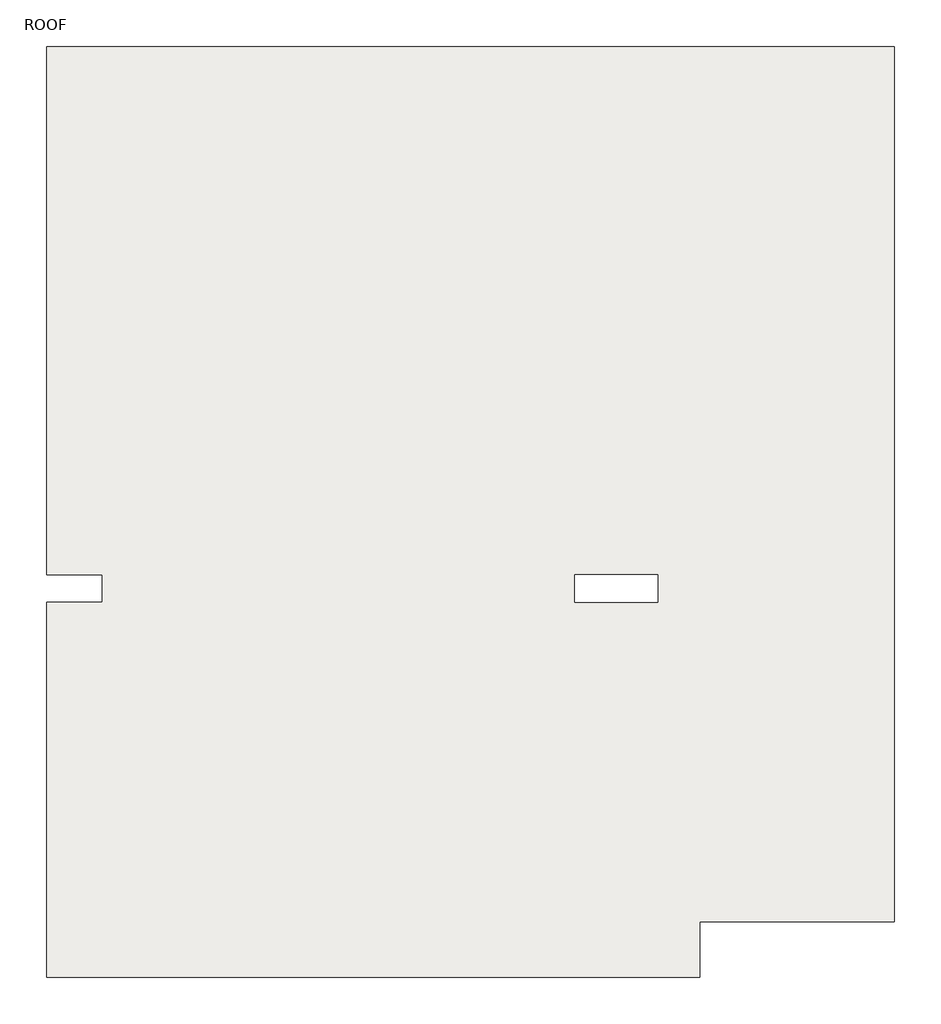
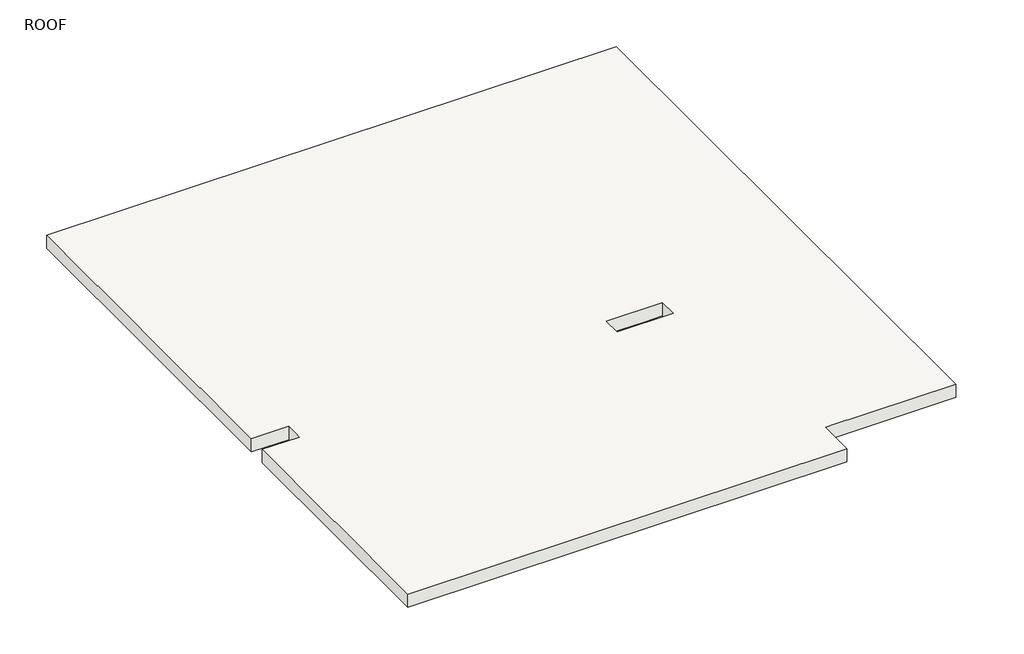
# One storey: 1 slab.
"""IFC4 building model written with IfcOpenShell, lengths in millimetres."""

from ifc_helpers import new_model, si_unit, origin, place, context, project, spatial, faceted_brep, element, save

model = new_model("IFC4")

# Units and contexts
model_context = context("Model", 3, world=origin())
ifc_project = project(units=[si_unit("LENGTHUNIT", "METRE", prefix="MILLI")], contexts=[model_context])

# Site, building, storey
site = spatial("IfcSite", under=ifc_project)
building = spatial("IfcBuilding", under=site)
storey = spatial("IfcBuildingStorey", under=building, Name="ROOF", Elevation=10500.0)

# Slab
placement = place(None, origin())
element("IfcSlab", 1, ObjectType="Generic Floor - 150mm", at=placement, inside=storey, context=model_context, shape_type="Brep", body=[
    faceted_brep([(481.0151778, 8029.7272556, 10350.0), (481.0151778, 5829.7272556, 10350.0), (481.0151778, 5629.7272556, 10350.0), (481.0151778, 1729.7272556, 10350.0), (-918.9848222, 1729.7272556, 10350.0), (-918.9848222, 1329.7272556, 10350.0), (-5618.9848222, 1329.7272556, 10350.0), (-5618.9848222, 4029.7272556, 10350.0), (-5218.9848222, 4029.7272556, 10350.0), (-5218.9848222, 4229.7272556, 10350.0), (-5618.9848222, 4229.7272556, 10350.0), (-5618.9848222, 8029.7272556, 10350.0), (-1418.9848222, 8029.7272556, 10350.0), (-1218.9848222, 8029.7272556, 10350.0), (-1218.9848222, 4229.7272556, 10350.0), (-1418.9848222, 4229.7272556, 10350.0), (-1818.9848222, 4229.7272556, 10350.0), (-1818.9848222, 4029.7272556, 10350.0), (-1218.9848222, 4029.7272556, 10350.0), (481.0151778, 1729.7272556, 10500.0), (481.0151778, 8029.7272556, 10500.0), (-5618.9848222, 8029.7272556, 10500.0), (-5618.9848222, 4229.7272556, 10500.0), (-5218.9848222, 4229.7272556, 10500.0), (-5218.9848222, 4029.7272556, 10500.0), (-5618.9848222, 4029.7272556, 10500.0), (-5618.9848222, 1329.7272556, 10500.0), (-918.9848222, 1329.7272556, 10500.0), (-918.9848222, 1729.7272556, 10500.0), (-1818.9848222, 4229.7272556, 10500.0), (-1218.9848222, 4229.7272556, 10500.0), (-1218.9848222, 4029.7272556, 10500.0), (-1818.9848222, 4029.7272556, 10500.0)], [[[0, 1, 2, 3, 4, 5, 6, 7, 8, 9, 10, 11, 12, 13], [14, 15, 16, 17, 18]], [[19, 20, 21, 22, 23, 24, 25, 26, 27, 28], [29, 30, 31, 32]], [[3, 2, 1, 0, 20, 19]], [[4, 3, 19, 28]], [[5, 4, 28, 27]], [[6, 5, 27, 26]], [[6, 26, 25, 7]], [[21, 11, 10, 22]], [[0, 13, 12, 11, 21, 20]], [[9, 23, 22, 10]], [[24, 8, 7, 25]], [[23, 9, 8, 24]], [[14, 30, 29, 16, 15]], [[16, 29, 32, 17]], [[17, 32, 31, 18]], [[30, 14, 18, 31]]]),
])

save(model, "model.ifc")
